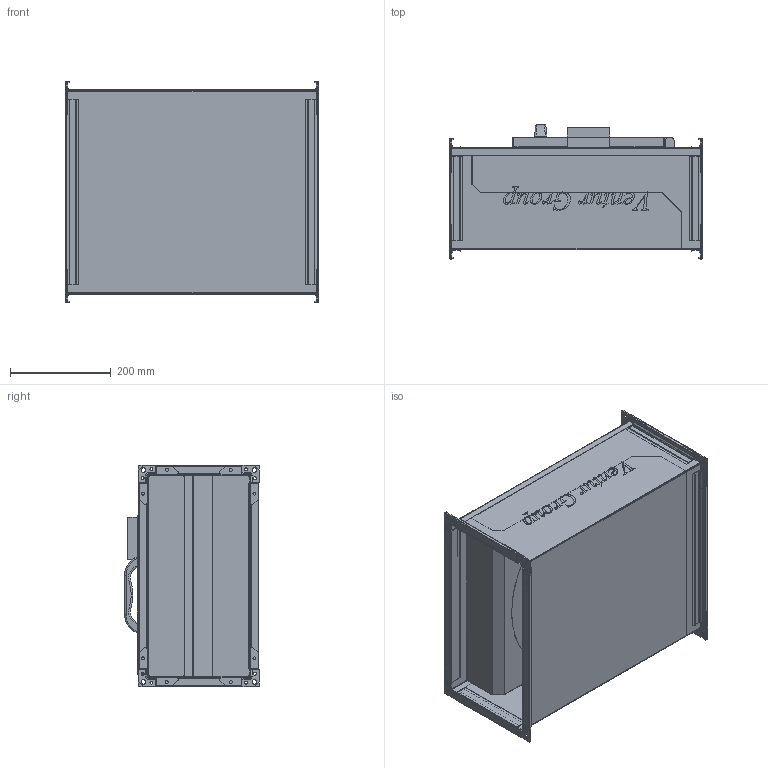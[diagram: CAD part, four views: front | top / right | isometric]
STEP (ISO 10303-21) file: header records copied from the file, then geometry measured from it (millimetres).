
FILE_DESCRIPTION(/* description */ (''),/* implementation_level */ '2;1');
FILE_NAME(/* name */ 'C:\Users\M.Janczarek\Documents\Modele uproszczone\IBF\IBF2_220S 41010021\IBF2_220S 41010021\IBF2_220S 41010021.stp',/* time_stamp */ '2018-03-22T11:50:05+01:00',/* author */ ('M.Janczarek'),/* organization */ (''),/* preprocessor_version */ 'ST-DEVELOPER v16.5',/* originating_system */ 'Autodesk Inventor 2017',/* authorisation */ '');
FILE_SCHEMA (('AUTOMOTIVE_DESIGN { 1 0 10303 214 3 1 1 }'));
Products named in the file (1): IBF2_220S 41010021
Bounding box: 501.6 x 266.99 x 439.97 mm (x, y, z)
Volume: 4589059.5 mm3; surface area: 2380967.3 mm2
Topology: 1 solids, 1 shells, 1768 faces, 5025 edges, 3212 vertices
Faces by surface type: plane 826, cylinder 502, bspline 336, torus 64, cone 24, sphere 16
Full cylindrical faces by diameter (mm): 6 x32, 9 x8, 160 x1, 220 x1
Entity records: 64176 total; most frequent: CARTESIAN_POINT 18298, ORIENTED_EDGE 9918, DIRECTION 8379, EDGE_CURVE 4959, VERTEX_POINT 3204, LINE 3061, VECTOR 3061, AXIS2_PLACEMENT_3D 2659
